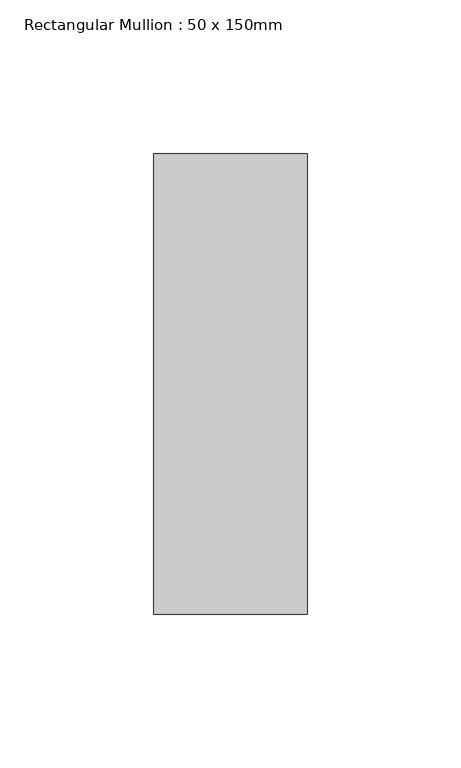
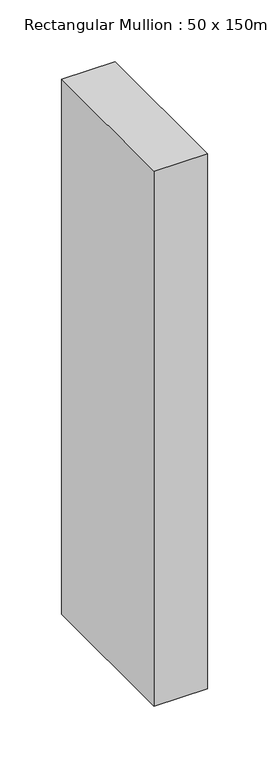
"""IFC4 building model written with IfcOpenShell, lengths in millimetres: member geometry, Rectangular Mullion : 50 x 150mm."""

from ifc_helpers import new_model, si_unit, frame, origin, place, context, project, spatial, polyline, outline, extrude, source, transform, mapped, element, save


def rectangular_mullion_50_x_150mm_731e338c(model_context):
    return source(origin(), model_context, "Body", "SweptSolid", [
        extrude(outline(polyline([(25.0, 75.0), (25.0, -75.0), (-25.0, -75.0), (-25.0, 75.0), (25.0, 75.0)])), frame((0.0, 0.0, -529.0000002), z_axis=(0.0, 0.0, 1.0), x_axis=(1.0, 0.0, 0.0)), (0.0, 0.0, 1.0), 529.0000002),
    ])


if __name__ == "__main__":
    model = new_model("IFC4")
    model_context = context("Model", 3, world=origin())
    ifc_project = project(units=[si_unit("LENGTHUNIT", "METRE", prefix="MILLI")], contexts=[model_context])
    site = spatial("IfcSite", under=ifc_project)
    building = spatial("IfcBuilding", under=site)
    placement = place(None, origin())
    rectangular_mullion_50_x_150mm_shape = rectangular_mullion_50_x_150mm_731e338c(model_context)
    element("IfcMember", 1, ObjectType="Rectangular Mullion : 50 x 150mm", at=placement, inside=building, context=model_context, shape_type="MappedRepresentation", body=[
        mapped(rectangular_mullion_50_x_150mm_shape, transform((0.0, 0.0, 0.0), x_axis=(1.0, 0.0, 0.0), y_axis=(0.0, 1.0, 0.0), z_axis=(0.0, 0.0, 1.0))),
    ])
    save(model, "model.ifc")
